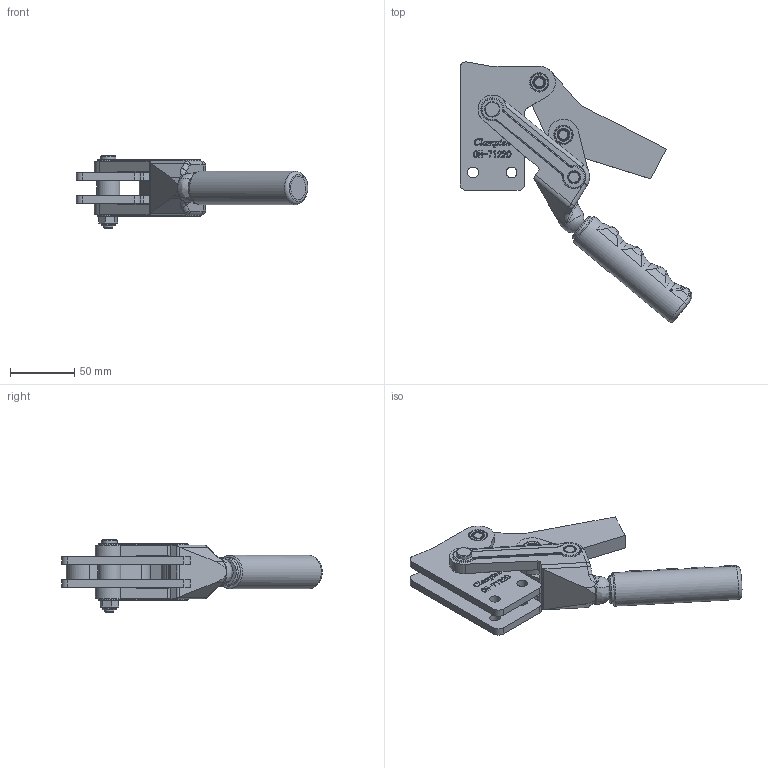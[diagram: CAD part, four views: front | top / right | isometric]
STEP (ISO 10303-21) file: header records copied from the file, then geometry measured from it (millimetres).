
FILE_DESCRIPTION(/* description */ ('STEP AP203'),/* implementation_level */ '2;1');
FILE_NAME(/* name */ 'D:\Vault_2016\Projekty\NASZ KATALOG\CLAMPTEK\STRONA\Heavy duty weldables\CH-71220\CH-71220_OTWARTY.stp',/* time_stamp */ '2019-01-21T09:17:37+01:00',/* author */ ('CADENGINEERING4'),/* organization */ ('Î¢ÈíÖÐ¹ú'),/* preprocessor_version */ 'ST-DEVELOPER v17.2',/* originating_system */ 'Autodesk Inventor 2019',/* authorisation */ '');
FILE_SCHEMA (('AUTOMOTIVE_DESIGN { 1 0 10303 214 3 1 1 }'));
Products named in the file (12): CH-71220_OTWARTY; 71220-01_Ä¬ÈÏ; M8_Ä¬ÈÏ; 71220-09_Ä¬ÈÏ; 71220-10_Ä¬ÈÏ; 71220-02_Ä¬ÈÏ; 71220-11_Ä¬ÈÏ; 71220-03_Ä¬ÈÏ; 71220-06_Ä¬ÈÏ; 71220-08_Ä¬ÈÏ; 71220-07_Ä¬ÈÏ; 71220-04_Ä¬ÈÏ_°´¼Ó¹
¤_
Assembly tree (20 placements, depth 2):
  CH-71220_OTWARTY
    71220-01_Ä¬ÈÏ
    71220-06_Ä¬ÈÏ  x8
    M8_Ä¬ÈÏ
    71220-09_Ä¬ÈÏ
    71220-10_Ä¬ÈÏ
    71220-02_Ä¬ÈÏ
    71220-11_Ä¬ÈÏ
    71220-08_Ä¬ÈÏ  x2
    71220-03_Ä¬ÈÏ  x2
    71220-07_Ä¬ÈÏ
    71220-04_Ä¬ÈÏ_°´¼Ó¹
¤_
Bounding box: 180.19 x 202.48 x 56 mm (x, y, z)
Volume: 259912.4 mm3; surface area: 101017.8 mm2
Topology: 22 solids, 22 shells, 2072 faces, 6039 edges, 4034 vertices
Faces by surface type: plane 938, cylinder 801, bspline 200, cone 83, torus 46, sphere 4
Full cylindrical faces by diameter (mm): 3 x1, 4 x1, 5.6 x1, 6.5 x5, 7 x1, 8 x6, 8.3 x4, 9 x15, 9.1 x1, 11 x1, 12 x1, 14 x16, 18 x1, 22 x2, 26 x1
Entity records: 69213 total; most frequent: CARTESIAN_POINT 24451, ORIENTED_EDGE 9724, DIRECTION 8883, EDGE_CURVE 4862, VERTEX_POINT 3244, AXIS2_PLACEMENT_3D 2981, LINE 2921, VECTOR 2921
